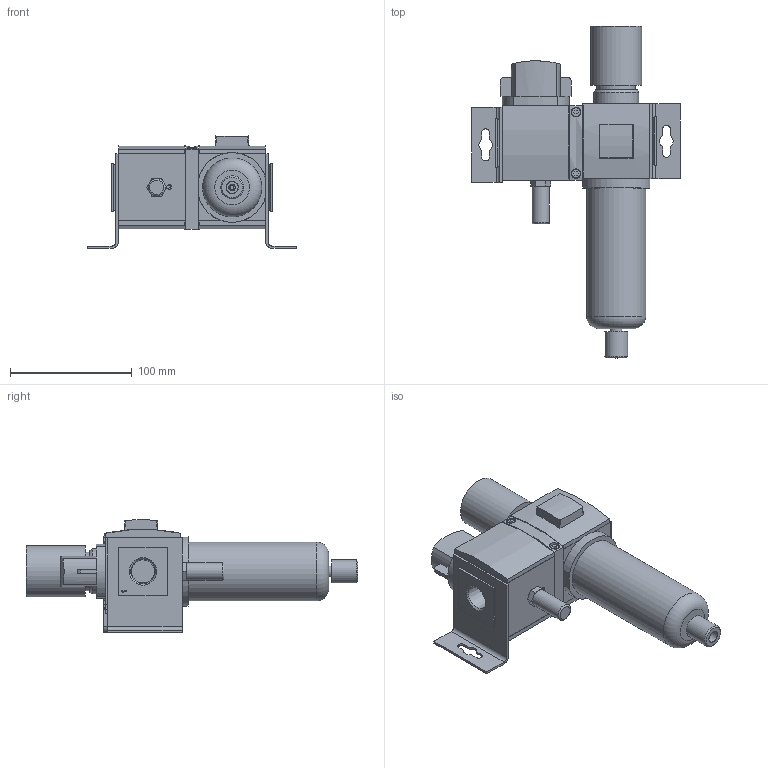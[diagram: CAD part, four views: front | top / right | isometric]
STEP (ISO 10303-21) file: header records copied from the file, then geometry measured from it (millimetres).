
FILE_DESCRIPTION( ( 'STEP AP214' ), '1' );
FILE_NAME( 'p:/temp/worker_279/temp/exporttempdir_4264_1698_bKciA/format_0/08572020-130256_gen_5423.stp', '2020-02-08T12:57:58', ( '' ), ( '' ), ' ', 'PARTsolutions', ' ' );
FILE_SCHEMA( ( 'AUTOMOTIVE_DESIGN { 1 0 10303 214 1 1 1 1 }' ) );
Length unit declared in the file: millimetre
Products named in the file (16): 08572020-130256_gen_5423; _433433015-F--0-A00129L; _433441-002-SV-0; _437742-001-100; _M2MN_652; _G652ASLA0A00A00_LS; _433073-015-F-KA0010AD0L; _433894-001; _440508-001-STANDARD; _433441-001-R-H; _438047-009; _433441-001-R-0; _440511-008-P; _440512-002-N; _8652ASLB0L00A00_LS; _8652ASLB0L00A00_RS
Assembly tree (16 placements, depth 2):
  08572020-130256_gen_5423
    _433433015-F--0-A00129L
    _433441-002-SV-0  x2
    _437742-001-100
    _M2MN_652
    _G652ASLA0A00A00_LS
    _433073-015-F-KA0010AD0L
    _433894-001
    _440508-001-STANDARD
    _433441-001-R-H
    _438047-009
    _433441-001-R-0
    _440511-008-P
    _440512-002-N
    _8652ASLB0L00A00_LS
    _8652ASLB0L00A00_RS
Bounding box: 171.3 x 272.52 x 92.51 mm (x, y, z)
Volume: 891783.7 mm3; surface area: 171816 mm2
Topology: 16 solids, 16 shells, 580 faces, 1407 edges, 912 vertices
Faces by surface type: plane 454, cylinder 78, cone 40, torus 8
Full cylindrical faces by diameter (mm): 2.8 x2, 5 x1, 5.6 x4, 6.3 x4, 7 x2, 7.8 x2, 8.25 x4, 9.728 x2, 10 x4, 14.224 x1, 15.1 x1, 19 x1, 31.6 x1, 37 x1, 41.845 x1, 48.5 x1
Entity records: 21511 total; most frequent: CARTESIAN_POINT 3323, DIRECTION 2677, ORIENTED_EDGE 2660, EDGE_CURVE 1330, LINE 1071, VECTOR 1071, VERTEX_POINT 901, AXIS2_PLACEMENT_3D 803
